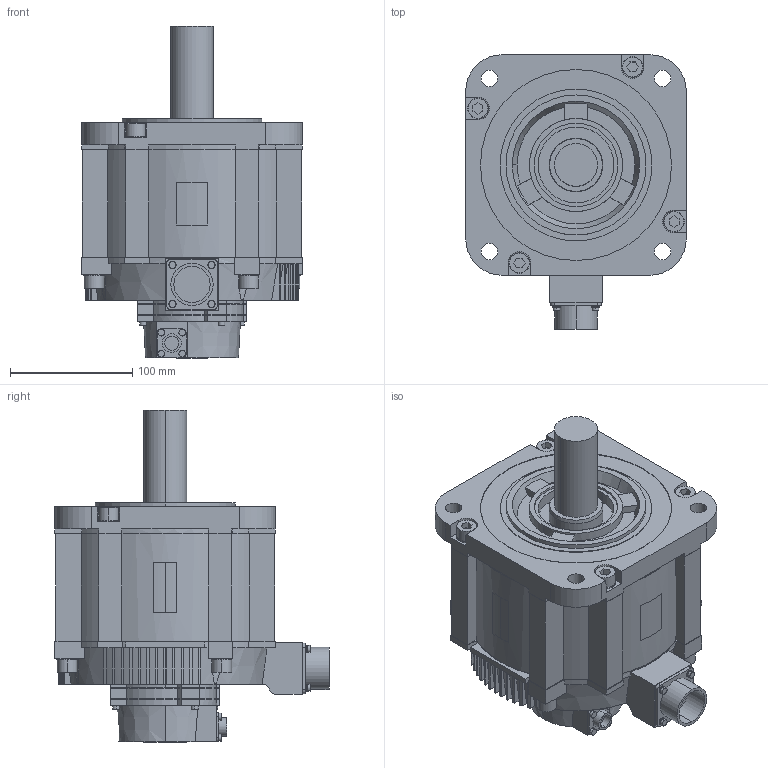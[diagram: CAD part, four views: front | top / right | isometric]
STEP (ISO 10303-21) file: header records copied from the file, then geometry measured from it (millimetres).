
FILE_DESCRIPTION (( 'STEP AP203' ), '1' );
FILE_NAME ('sgm7g_44a6a21.STEP', '2016-11-12T04:53:56', ( '匠エンジニアリング山之内' ), ( 'TAKUMI-Engniaring' ), 'SwSTEP 2.0', 'SolidWorks 2006303', '' );
FILE_SCHEMA (( 'CONFIG_CONTROL_DESIGN' ));
Length unit declared in the file: millimetre
Products named in the file (1): sgm7g_44a6a21
Bounding box: 180 x 223.85 x 271.1 mm (x, y, z)
Volume: 4160119.3 mm3; surface area: 233541.3 mm2
Topology: 1 solids, 1 shells, 715 faces, 1887 edges, 1250 vertices
Faces by surface type: plane 432, cylinder 223, cone 60
Entity records: 22617 total; most frequent: CARTESIAN_POINT 4384, DIRECTION 3825, ORIENTED_EDGE 3774, EDGE_CURVE 1887, AXIS2_PLACEMENT_3D 1324, VERTEX_POINT 1250, VECTOR 1177, LINE 1177
